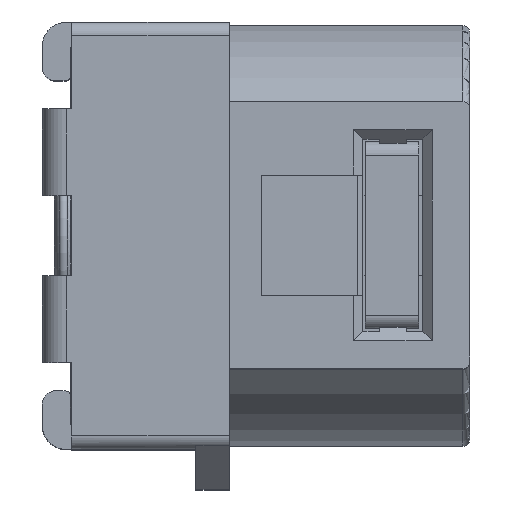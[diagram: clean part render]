
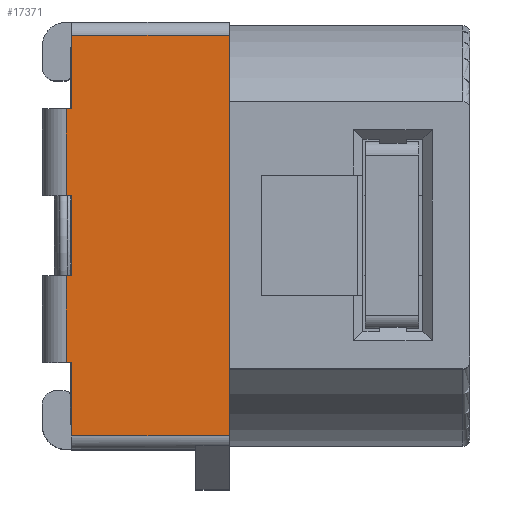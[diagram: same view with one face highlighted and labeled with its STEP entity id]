
A CAD part, top view. The second image highlights one B-rep face of the part: STEP entity #17371.
In plain terms, the highlighted planar face has unit normal (0, 0, 1).
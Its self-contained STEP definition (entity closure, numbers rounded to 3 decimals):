
#1395=PLANE('',#18611);
#3168=LINE('',#27505,#5081);
#3195=LINE('',#27581,#5108);
#3200=LINE('',#27603,#5113);
#3223=LINE('',#27670,#5136);
#3224=LINE('',#27673,#5137);
#3225=LINE('',#27675,#5138);
#3226=LINE('',#27677,#5139);
#3227=LINE('',#27678,#5140);
#3228=LINE('',#27680,#5141);
#3229=LINE('',#27681,#5142);
#3230=LINE('',#27683,#5143);
#3231=LINE('',#27685,#5144);
#3232=LINE('',#27687,#5145);
#3233=LINE('',#27688,#5146);
#5081=VECTOR('',#22412,10.);
#5108=VECTOR('',#22485,10.);
#5113=VECTOR('',#22506,10.);
#5136=VECTOR('',#22575,10.);
#5137=VECTOR('',#22578,10.);
#5138=VECTOR('',#22579,10.);
#5139=VECTOR('',#22580,10.);
#5140=VECTOR('',#22581,10.);
#5141=VECTOR('',#22582,10.);
#5142=VECTOR('',#22583,10.);
#5143=VECTOR('',#22584,10.);
#5144=VECTOR('',#22585,10.);
#5145=VECTOR('',#22586,10.);
#5146=VECTOR('',#22587,10.);
#6191=FACE_OUTER_BOUND('',#7097,.T.);
#7097=EDGE_LOOP('',(#15571,#15572,#15573,#15574,#15575,#15576,#15577,#15578,
#15579,#15580,#15581,#15582,#15583,#15584));
#8976=VERTEX_POINT('',#27502);
#8977=VERTEX_POINT('',#27504);
#9002=VERTEX_POINT('',#27578);
#9003=VERTEX_POINT('',#27580);
#9011=VERTEX_POINT('',#27600);
#9012=VERTEX_POINT('',#27602);
#9033=VERTEX_POINT('',#27668);
#9034=VERTEX_POINT('',#27672);
#9035=VERTEX_POINT('',#27674);
#9036=VERTEX_POINT('',#27676);
#9037=VERTEX_POINT('',#27679);
#9038=VERTEX_POINT('',#27682);
#9039=VERTEX_POINT('',#27684);
#9040=VERTEX_POINT('',#27686);
#11200=EDGE_CURVE('',#8976,#8977,#3168,.T.);
#11238=EDGE_CURVE('',#9002,#9003,#3195,.T.);
#11249=EDGE_CURVE('',#9012,#9011,#3200,.T.);
#11283=EDGE_CURVE('',#9033,#9011,#3223,.T.);
#11284=EDGE_CURVE('',#9034,#9033,#3224,.T.);
#11285=EDGE_CURVE('',#9035,#9034,#3225,.T.);
#11286=EDGE_CURVE('',#9035,#9036,#3226,.T.);
#11287=EDGE_CURVE('',#9003,#9036,#3227,.T.);
#11288=EDGE_CURVE('',#9037,#9002,#3228,.T.);
#11289=EDGE_CURVE('',#9037,#8977,#3229,.T.);
#11290=EDGE_CURVE('',#9038,#8976,#3230,.T.);
#11291=EDGE_CURVE('',#9039,#9038,#3231,.T.);
#11292=EDGE_CURVE('',#9040,#9039,#3232,.T.);
#11293=EDGE_CURVE('',#9012,#9040,#3233,.T.);
#15571=ORIENTED_EDGE('',*,*,#11283,.F.);
#15572=ORIENTED_EDGE('',*,*,#11284,.F.);
#15573=ORIENTED_EDGE('',*,*,#11285,.F.);
#15574=ORIENTED_EDGE('',*,*,#11286,.T.);
#15575=ORIENTED_EDGE('',*,*,#11287,.F.);
#15576=ORIENTED_EDGE('',*,*,#11238,.F.);
#15577=ORIENTED_EDGE('',*,*,#11288,.F.);
#15578=ORIENTED_EDGE('',*,*,#11289,.T.);
#15579=ORIENTED_EDGE('',*,*,#11200,.F.);
#15580=ORIENTED_EDGE('',*,*,#11290,.F.);
#15581=ORIENTED_EDGE('',*,*,#11291,.F.);
#15582=ORIENTED_EDGE('',*,*,#11292,.F.);
#15583=ORIENTED_EDGE('',*,*,#11293,.F.);
#15584=ORIENTED_EDGE('',*,*,#11249,.T.);
#17371=ADVANCED_FACE('',(#6191),#1395,.T.);
#18611=AXIS2_PLACEMENT_3D('',#27671,#22576,#22577);
#22412=DIRECTION('',(0.,-1.,0.));
#22485=DIRECTION('',(-1.,0.,0.));
#22506=DIRECTION('',(-1.,0.,0.));
#22575=DIRECTION('',(0.,1.,0.));
#22576=DIRECTION('center_axis',(0.,0.,1.));
#22577=DIRECTION('ref_axis',(0.,-1.,0.));
#22578=DIRECTION('',(-1.,0.,0.));
#22579=DIRECTION('',(0.,1.,0.));
#22580=DIRECTION('',(-1.,0.,0.));
#22581=DIRECTION('',(0.,1.,0.));
#22582=DIRECTION('',(0.,1.,0.));
#22583=DIRECTION('',(1.,0.,0.));
#22584=DIRECTION('',(0.,-1.,0.));
#22585=DIRECTION('',(0.,-1.,0.));
#22586=DIRECTION('',(1.,0.,0.));
#22587=DIRECTION('',(0.,1.,0.));
#27502=CARTESIAN_POINT('',(-4.8,-5.,8.));
#27504=CARTESIAN_POINT('',(-4.8,-7.5,8.));
#27505=CARTESIAN_POINT('',(-4.8,7.5,8.));
#27578=CARTESIAN_POINT('',(-10.7,-4.75,8.));
#27580=CARTESIAN_POINT('',(-10.9,-4.75,8.));
#27581=CARTESIAN_POINT('',(-10.75,-4.75,8.));
#27600=CARTESIAN_POINT('',(-10.9,4.75,8.));
#27602=CARTESIAN_POINT('',(-10.7,4.75,8.));
#27603=CARTESIAN_POINT('',(-10.7,4.75,8.));
#27668=CARTESIAN_POINT('',(-10.9,1.5,8.));
#27670=CARTESIAN_POINT('',(-10.9,5.286,8.));
#27671=CARTESIAN_POINT('Origin',(-6.05,7.5,8.));
#27672=CARTESIAN_POINT('',(-10.7,1.5,8.));
#27673=CARTESIAN_POINT('',(-10.7,1.5,8.));
#27674=CARTESIAN_POINT('',(-10.7,-1.5,8.));
#27675=CARTESIAN_POINT('',(-10.7,-7.5,8.));
#27676=CARTESIAN_POINT('',(-10.9,-1.5,8.));
#27677=CARTESIAN_POINT('',(-10.75,-1.5,8.));
#27678=CARTESIAN_POINT('',(-10.9,2.214,8.));
#27679=CARTESIAN_POINT('',(-10.7,-7.5,8.));
#27680=CARTESIAN_POINT('',(-10.7,-7.5,8.));
#27681=CARTESIAN_POINT('',(-6.05,-7.5,8.));
#27682=CARTESIAN_POINT('',(-4.8,5.,8.));
#27683=CARTESIAN_POINT('',(-4.8,7.5,8.));
#27684=CARTESIAN_POINT('',(-4.8,7.5,8.));
#27685=CARTESIAN_POINT('',(-4.8,7.5,8.));
#27686=CARTESIAN_POINT('',(-10.7,7.5,8.));
#27687=CARTESIAN_POINT('',(-6.05,7.5,8.));
#27688=CARTESIAN_POINT('',(-10.7,-7.5,8.));
